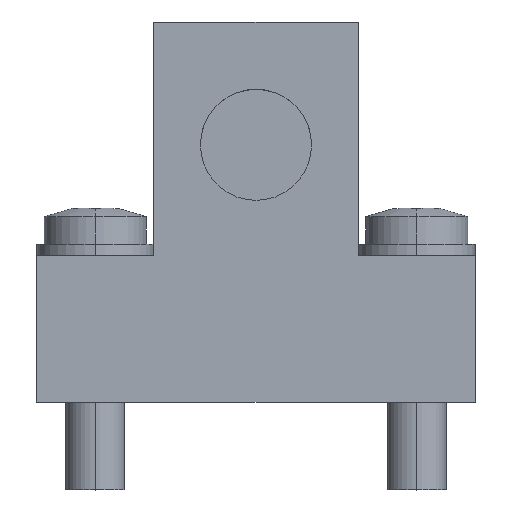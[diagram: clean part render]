
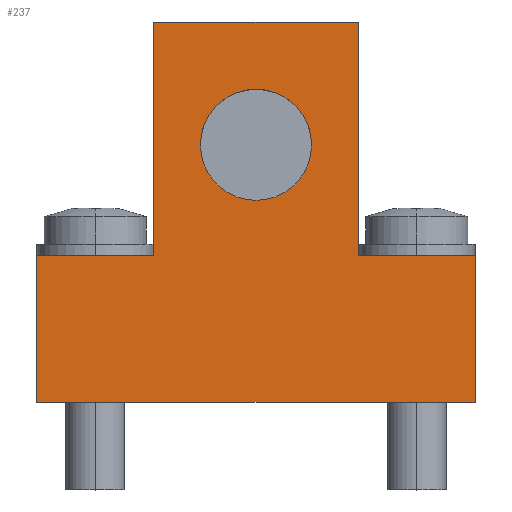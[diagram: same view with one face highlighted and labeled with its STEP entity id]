
A CAD part, top view. The second image highlights one B-rep face of the part: STEP entity #237.
In plain terms, the highlighted planar face has unit normal (0, 0, 1).
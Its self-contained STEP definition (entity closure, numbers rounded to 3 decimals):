
#79 = ORIENTED_EDGE ( 'NONE', *, *, #290, .T. ) ;
#100 = EDGE_CURVE ( 'NONE', #101, #288, #816, .T. ) ;
#101 = VERTEX_POINT ( 'NONE', #767 ) ;
#106 = ORIENTED_EDGE ( 'NONE', *, *, #107, .F. ) ;
#107 = EDGE_CURVE ( 'NONE', #291, #101, #751, .T. ) ;
#166 = ORIENTED_EDGE ( 'NONE', *, *, #100, .F. ) ;
#169 = ORIENTED_EDGE ( 'NONE', *, *, #170, .F. ) ;
#170 = EDGE_CURVE ( 'NONE', #325, #255, #927, .T. ) ;
#171 = ORIENTED_EDGE ( 'NONE', *, *, #324, .F. ) ;
#172 = EDGE_LOOP ( 'NONE', ( #173, #175, #176, #285, #286, #166, #106, #79 ) ) ;
#173 = ORIENTED_EDGE ( 'NONE', *, *, #174, .T. ) ;
#174 = EDGE_CURVE ( 'NONE', #282, #248, #930, .T. ) ;
#175 = ORIENTED_EDGE ( 'NONE', *, *, #247, .T. ) ;
#176 = ORIENTED_EDGE ( 'NONE', *, *, #193, .T. ) ;
#193 = EDGE_CURVE ( 'NONE', #249, #341, #966, .T. ) ;
#237 = ADVANCED_FACE ( 'NONE', ( #1044, #1043 ), #1042, .F. ) ;
#238 = EDGE_LOOP ( 'NONE', ( #169, #171 ) ) ;
#247 = EDGE_CURVE ( 'NONE', #248, #249, #1059, .T. ) ;
#248 = VERTEX_POINT ( 'NONE', #1055 ) ;
#249 = VERTEX_POINT ( 'NONE', #1054 ) ;
#255 = VERTEX_POINT ( 'NONE', #1072 ) ;
#271 = EDGE_CURVE ( 'NONE', #341, #322, #1136, .T. ) ;
#282 = VERTEX_POINT ( 'NONE', #1140 ) ;
#285 = ORIENTED_EDGE ( 'NONE', *, *, #271, .T. ) ;
#286 = ORIENTED_EDGE ( 'NONE', *, *, #287, .T. ) ;
#287 = EDGE_CURVE ( 'NONE', #322, #288, #1139, .T. ) ;
#288 = VERTEX_POINT ( 'NONE', #1117 ) ;
#290 = EDGE_CURVE ( 'NONE', #291, #282, #1116, .T. ) ;
#291 = VERTEX_POINT ( 'NONE', #1112 ) ;
#322 = VERTEX_POINT ( 'NONE', #1230 ) ;
#324 = EDGE_CURVE ( 'NONE', #255, #325, #1228, .T. ) ;
#325 = VERTEX_POINT ( 'NONE', #1229 ) ;
#341 = VERTEX_POINT ( 'NONE', #1254 ) ;
#748 = DIRECTION ( 'NONE',  ( 0., -1., 0. ) ) ;
#749 = VECTOR ( 'NONE', #748, 1000. ) ;
#750 = CARTESIAN_POINT ( 'NONE',  ( 7., 26., 5. ) ) ;
#751 = LINE ( 'NONE', #750, #749 ) ;
#767 = CARTESIAN_POINT ( 'NONE',  ( 7., 10., 5. ) ) ;
#768 = DIRECTION ( 'NONE',  ( 1., 0., 0. ) ) ;
#769 = VECTOR ( 'NONE', #768, 1000. ) ;
#770 = CARTESIAN_POINT ( 'NONE',  ( 15., 10., 5. ) ) ;
#816 = LINE ( 'NONE', #770, #769 ) ;
#911 = DIRECTION ( 'NONE',  ( 0., -1., 0. ) ) ;
#914 = DIRECTION ( 'NONE',  ( 1., 0., 0. ) ) ;
#915 = DIRECTION ( 'NONE',  ( 0., 0., 1. ) ) ;
#925 = CARTESIAN_POINT ( 'NONE',  ( 0., 17.6, 5. ) ) ;
#926 = AXIS2_PLACEMENT_3D ( 'NONE', #925, #915, #914 ) ;
#927 = CIRCLE ( 'NONE', #926, 3.8 ) ;
#928 = VECTOR ( 'NONE', #911, 1000. ) ;
#929 = CARTESIAN_POINT ( 'NONE',  ( -7., 26., 5. ) ) ;
#930 = LINE ( 'NONE', #929, #928 ) ;
#955 = DIRECTION ( 'NONE',  ( 0., -1., 0. ) ) ;
#964 = VECTOR ( 'NONE', #955, 1000. ) ;
#965 = CARTESIAN_POINT ( 'NONE',  ( -15., 0., 5. ) ) ;
#966 = LINE ( 'NONE', #965, #964 ) ;
#1038 = DIRECTION ( 'NONE',  ( -1., 0., 0. ) ) ;
#1039 = DIRECTION ( 'NONE',  ( 0., 0., -1. ) ) ;
#1040 = CARTESIAN_POINT ( 'NONE',  ( -15., 0., 5. ) ) ;
#1041 = AXIS2_PLACEMENT_3D ( 'NONE', #1040, #1039, #1038 ) ;
#1042 = PLANE ( 'NONE',  #1041 ) ;
#1043 = FACE_OUTER_BOUND ( 'NONE', #172, .T. ) ;
#1044 = FACE_BOUND ( 'NONE', #238, .T. ) ;
#1054 = CARTESIAN_POINT ( 'NONE',  ( -15., 10., 5. ) ) ;
#1055 = CARTESIAN_POINT ( 'NONE',  ( -7., 10., 5. ) ) ;
#1056 = DIRECTION ( 'NONE',  ( -1., 0., 0. ) ) ;
#1057 = VECTOR ( 'NONE', #1056, 1000. ) ;
#1058 = CARTESIAN_POINT ( 'NONE',  ( -15., 10., 5. ) ) ;
#1059 = LINE ( 'NONE', #1058, #1057 ) ;
#1072 = CARTESIAN_POINT ( 'NONE',  ( -3.8, 17.6, 5. ) ) ;
#1112 = CARTESIAN_POINT ( 'NONE',  ( 7., 26., 5. ) ) ;
#1113 = DIRECTION ( 'NONE',  ( -1., 0., 0. ) ) ;
#1114 = VECTOR ( 'NONE', #1113, 1000. ) ;
#1115 = CARTESIAN_POINT ( 'NONE',  ( -15., 26., 5. ) ) ;
#1116 = LINE ( 'NONE', #1115, #1114 ) ;
#1117 = CARTESIAN_POINT ( 'NONE',  ( 15., 10., 5. ) ) ;
#1118 = VECTOR ( 'NONE', #1137, 1000. ) ;
#1119 = VECTOR ( 'NONE', #1122, 1000. ) ;
#1120 = CARTESIAN_POINT ( 'NONE',  ( -15., 0., 5. ) ) ;
#1122 = DIRECTION ( 'NONE',  ( 1., 0., 0. ) ) ;
#1136 = LINE ( 'NONE', #1120, #1119 ) ;
#1137 = DIRECTION ( 'NONE',  ( 0., 1., 0. ) ) ;
#1138 = CARTESIAN_POINT ( 'NONE',  ( 15., 0., 5. ) ) ;
#1139 = LINE ( 'NONE', #1138, #1118 ) ;
#1140 = CARTESIAN_POINT ( 'NONE',  ( -7., 26., 5. ) ) ;
#1224 = DIRECTION ( 'NONE',  ( 1., 0., 0. ) ) ;
#1225 = DIRECTION ( 'NONE',  ( 0., 0., 1. ) ) ;
#1226 = CARTESIAN_POINT ( 'NONE',  ( 0., 17.6, 5. ) ) ;
#1227 = AXIS2_PLACEMENT_3D ( 'NONE', #1226, #1225, #1224 ) ;
#1228 = CIRCLE ( 'NONE', #1227, 3.8 ) ;
#1229 = CARTESIAN_POINT ( 'NONE',  ( 3.8, 17.6, 5. ) ) ;
#1230 = CARTESIAN_POINT ( 'NONE',  ( 15., 0., 5. ) ) ;
#1254 = CARTESIAN_POINT ( 'NONE',  ( -15., 0., 5. ) ) ;
